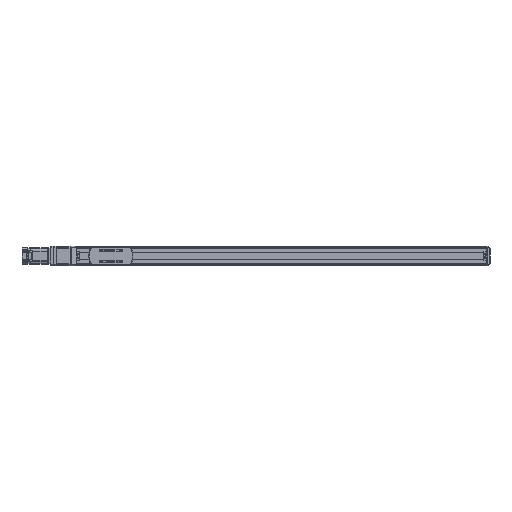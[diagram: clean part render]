
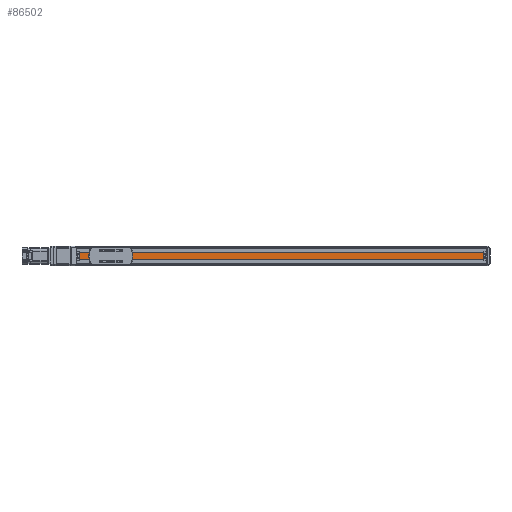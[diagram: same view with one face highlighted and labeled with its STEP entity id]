
A CAD part, top view. The second image highlights one B-rep face of the part: STEP entity #86502.
In plain terms, the highlighted planar face has unit normal (0, 0, 1) as drawn and (0, 1, 0) by its records, which use the part's own axes.
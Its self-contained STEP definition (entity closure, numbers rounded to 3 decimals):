
#86502 = ADVANCED_FACE('',(#86503),#86517,.T.);
#86503 = FACE_BOUND('',#86504,.T.);
#86504 = EDGE_LOOP('',(#86505,#86540,#86568,#86596));
#86505 = ORIENTED_EDGE('',*,*,#86506,.F.);
#86506 = EDGE_CURVE('',#86507,#86509,#86511,.T.);
#86507 = VERTEX_POINT('',#86508);
#86508 = CARTESIAN_POINT('',(-1380.5,18.,-13.));
#86509 = VERTEX_POINT('',#86510);
#86510 = CARTESIAN_POINT('',(-21.5,18.,-13.));
#86511 = SURFACE_CURVE('',#86512,(#86516,#86528),.PCURVE_S1.);
#86512 = LINE('',#86513,#86514);
#86513 = CARTESIAN_POINT('',(-1380.5,18.,-13.));
#86514 = VECTOR('',#86515,1.);
#86515 = DIRECTION('',(1.,0.,0.));
#86516 = PCURVE('',#86517,#86522);
#86517 = PLANE('',#86518);
#86518 = AXIS2_PLACEMENT_3D('',#86519,#86520,#86521);
#86519 = CARTESIAN_POINT('',(-1390.5,18.,-26.583));
#86520 = DIRECTION('',(0.,1.,0.));
#86521 = DIRECTION('',(0.,-0.,1.));
#86522 = DEFINITIONAL_REPRESENTATION('',(#86523),#86527);
#86523 = LINE('',#86524,#86525);
#86524 = CARTESIAN_POINT('',(13.583,10.));
#86525 = VECTOR('',#86526,1.);
#86526 = DIRECTION('',(0.,1.));
#86527 = ( GEOMETRIC_REPRESENTATION_CONTEXT(2) 
PARAMETRIC_REPRESENTATION_CONTEXT() REPRESENTATION_CONTEXT('2D SPACE',''
  ) );
#86528 = PCURVE('',#86529,#86534);
#86529 = PLANE('',#86530);
#86530 = AXIS2_PLACEMENT_3D('',#86531,#86532,#86533);
#86531 = CARTESIAN_POINT('',(-1380.5,18.,-13.));
#86532 = DIRECTION('',(0.,0.,1.));
#86533 = DIRECTION('',(1.,0.,-0.));
#86534 = DEFINITIONAL_REPRESENTATION('',(#86535),#86539);
#86535 = LINE('',#86536,#86537);
#86536 = CARTESIAN_POINT('',(0.,0.));
#86537 = VECTOR('',#86538,1.);
#86538 = DIRECTION('',(1.,0.));
#86539 = ( GEOMETRIC_REPRESENTATION_CONTEXT(2) 
PARAMETRIC_REPRESENTATION_CONTEXT() REPRESENTATION_CONTEXT('2D SPACE',''
  ) );
#86540 = ORIENTED_EDGE('',*,*,#86541,.T.);
#86541 = EDGE_CURVE('',#86507,#86542,#86544,.T.);
#86542 = VERTEX_POINT('',#86543);
#86543 = CARTESIAN_POINT('',(-1380.5,18.,13.));
#86544 = SURFACE_CURVE('',#86545,(#86549,#86556),.PCURVE_S1.);
#86545 = LINE('',#86546,#86547);
#86546 = CARTESIAN_POINT('',(-1380.5,18.,-26.583));
#86547 = VECTOR('',#86548,1.);
#86548 = DIRECTION('',(0.,0.,1.));
#86549 = PCURVE('',#86517,#86550);
#86550 = DEFINITIONAL_REPRESENTATION('',(#86551),#86555);
#86551 = LINE('',#86552,#86553);
#86552 = CARTESIAN_POINT('',(0.,10.));
#86553 = VECTOR('',#86554,1.);
#86554 = DIRECTION('',(1.,0.));
#86555 = ( GEOMETRIC_REPRESENTATION_CONTEXT(2) 
PARAMETRIC_REPRESENTATION_CONTEXT() REPRESENTATION_CONTEXT('2D SPACE',''
  ) );
#86556 = PCURVE('',#86557,#86562);
#86557 = PLANE('',#86558);
#86558 = AXIS2_PLACEMENT_3D('',#86559,#86560,#86561);
#86559 = CARTESIAN_POINT('',(-1380.5,0.,0.));
#86560 = DIRECTION('',(1.,0.,0.));
#86561 = DIRECTION('',(0.,0.,-1.));
#86562 = DEFINITIONAL_REPRESENTATION('',(#86563),#86567);
#86563 = LINE('',#86564,#86565);
#86564 = CARTESIAN_POINT('',(26.583,18.));
#86565 = VECTOR('',#86566,1.);
#86566 = DIRECTION('',(-1.,0.));
#86567 = ( GEOMETRIC_REPRESENTATION_CONTEXT(2) 
PARAMETRIC_REPRESENTATION_CONTEXT() REPRESENTATION_CONTEXT('2D SPACE',''
  ) );
#86568 = ORIENTED_EDGE('',*,*,#86569,.T.);
#86569 = EDGE_CURVE('',#86542,#86570,#86572,.T.);
#86570 = VERTEX_POINT('',#86571);
#86571 = CARTESIAN_POINT('',(-21.5,18.,13.));
#86572 = SURFACE_CURVE('',#86573,(#86577,#86584),.PCURVE_S1.);
#86573 = LINE('',#86574,#86575);
#86574 = CARTESIAN_POINT('',(-1380.5,18.,13.));
#86575 = VECTOR('',#86576,1.);
#86576 = DIRECTION('',(1.,0.,0.));
#86577 = PCURVE('',#86517,#86578);
#86578 = DEFINITIONAL_REPRESENTATION('',(#86579),#86583);
#86579 = LINE('',#86580,#86581);
#86580 = CARTESIAN_POINT('',(39.583,10.));
#86581 = VECTOR('',#86582,1.);
#86582 = DIRECTION('',(0.,1.));
#86583 = ( GEOMETRIC_REPRESENTATION_CONTEXT(2) 
PARAMETRIC_REPRESENTATION_CONTEXT() REPRESENTATION_CONTEXT('2D SPACE',''
  ) );
#86584 = PCURVE('',#86585,#86590);
#86585 = PLANE('',#86586);
#86586 = AXIS2_PLACEMENT_3D('',#86587,#86588,#86589);
#86587 = CARTESIAN_POINT('',(-1380.5,15.,13.));
#86588 = DIRECTION('',(0.,0.,-1.));
#86589 = DIRECTION('',(-1.,0.,0.));
#86590 = DEFINITIONAL_REPRESENTATION('',(#86591),#86595);
#86591 = LINE('',#86592,#86593);
#86592 = CARTESIAN_POINT('',(0.,3.));
#86593 = VECTOR('',#86594,1.);
#86594 = DIRECTION('',(-1.,0.));
#86595 = ( GEOMETRIC_REPRESENTATION_CONTEXT(2) 
PARAMETRIC_REPRESENTATION_CONTEXT() REPRESENTATION_CONTEXT('2D SPACE',''
  ) );
#86596 = ORIENTED_EDGE('',*,*,#86597,.T.);
#86597 = EDGE_CURVE('',#86570,#86509,#86598,.T.);
#86598 = SURFACE_CURVE('',#86599,(#86603,#86610),.PCURVE_S1.);
#86599 = LINE('',#86600,#86601);
#86600 = CARTESIAN_POINT('',(-21.5,18.,-26.583));
#86601 = VECTOR('',#86602,1.);
#86602 = DIRECTION('',(0.,0.,-1.));
#86603 = PCURVE('',#86517,#86604);
#86604 = DEFINITIONAL_REPRESENTATION('',(#86605),#86609);
#86605 = LINE('',#86606,#86607);
#86606 = CARTESIAN_POINT('',(0.,1369.));
#86607 = VECTOR('',#86608,1.);
#86608 = DIRECTION('',(-1.,0.));
#86609 = ( GEOMETRIC_REPRESENTATION_CONTEXT(2) 
PARAMETRIC_REPRESENTATION_CONTEXT() REPRESENTATION_CONTEXT('2D SPACE',''
  ) );
#86610 = PCURVE('',#86611,#86616);
#86611 = PLANE('',#86612);
#86612 = AXIS2_PLACEMENT_3D('',#86613,#86614,#86615);
#86613 = CARTESIAN_POINT('',(-21.5,0.,0.));
#86614 = DIRECTION('',(1.,0.,0.));
#86615 = DIRECTION('',(0.,0.,-1.));
#86616 = DEFINITIONAL_REPRESENTATION('',(#86617),#86621);
#86617 = LINE('',#86618,#86619);
#86618 = CARTESIAN_POINT('',(26.583,18.));
#86619 = VECTOR('',#86620,1.);
#86620 = DIRECTION('',(1.,0.));
#86621 = ( GEOMETRIC_REPRESENTATION_CONTEXT(2) 
PARAMETRIC_REPRESENTATION_CONTEXT() REPRESENTATION_CONTEXT('2D SPACE',''
  ) );
